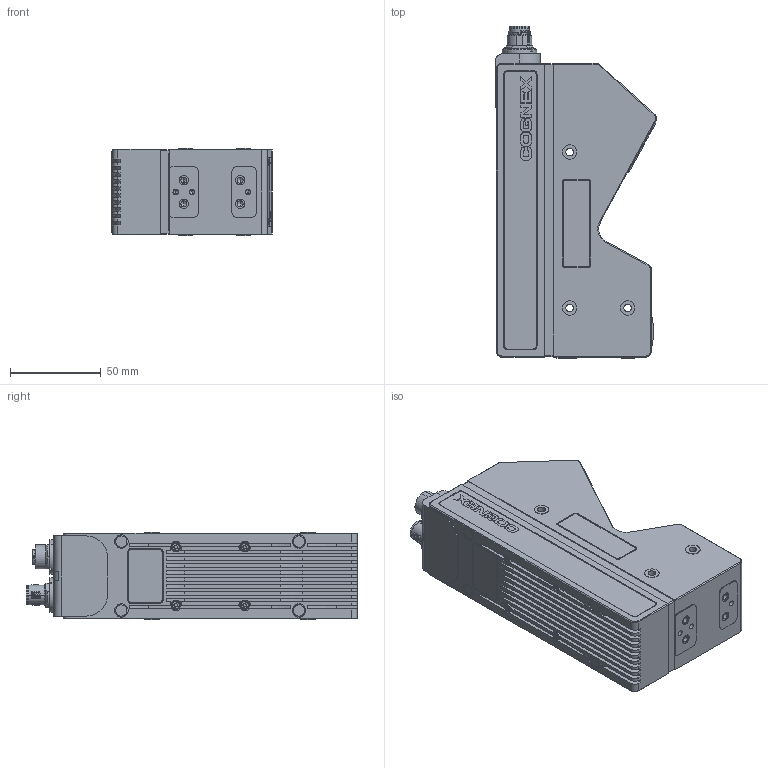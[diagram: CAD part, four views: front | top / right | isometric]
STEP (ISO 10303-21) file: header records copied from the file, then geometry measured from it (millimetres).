
FILE_DESCRIPTION (( 'STEP AP214' ), '1' );
FILE_NAME ('3.012.132 - CUSTOMER DATA - L68-100-001.STEP', '2024-12-05T19:06:44', ( '' ), ( '' ), 'SwSTEP 2.0', 'SolidWorks 2024', '' );
FILE_SCHEMA (( 'AUTOMOTIVE_DESIGN' ));
Length unit declared in the file: millimetre
Products named in the file (1): 3.012.132 - CUSTOMER DATA - L68-100-001
Bounding box: 88.77 x 183.1 x 48 mm (x, y, z)
Volume: 579859 mm3; surface area: 114880.2 mm2
Topology: 32 solids, 35 shells, 2401 faces, 6353 edges, 4124 vertices
Faces by surface type: plane 1043, cylinder 692, bspline 416, cone 142, torus 94, sphere 14
Entity records: 98686 total; most frequent: CARTESIAN_POINT 40922, ORIENTED_EDGE 12572, DIRECTION 10931, EDGE_CURVE 6286, VERTEX_POINT 4100, AXIS2_PLACEMENT_3D 3684, LINE 3563, VECTOR 3563
